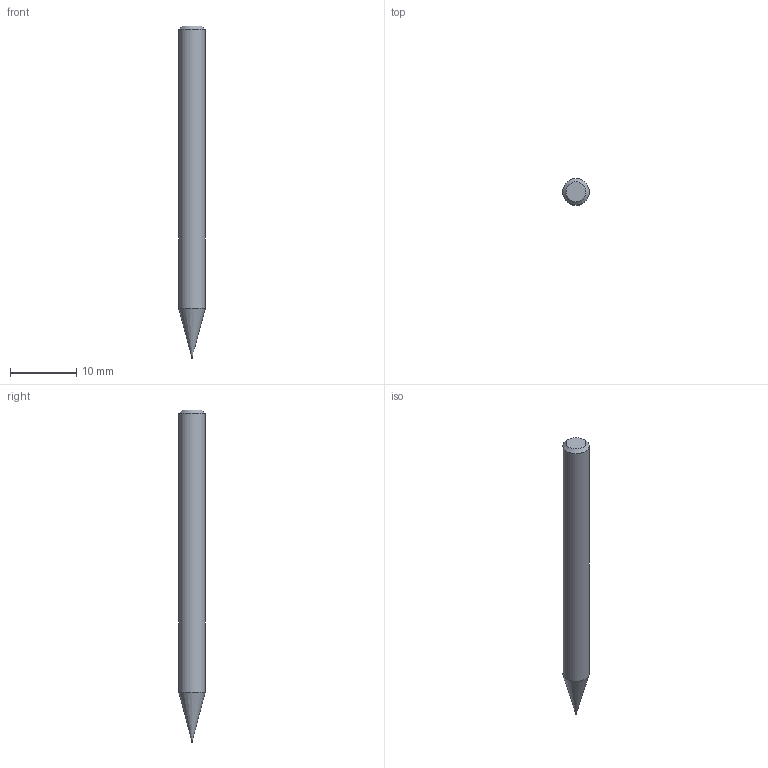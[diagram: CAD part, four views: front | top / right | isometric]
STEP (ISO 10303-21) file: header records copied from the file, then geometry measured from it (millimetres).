
FILE_DESCRIPTION((''),'2;1');
FILE_NAME('C:\Users\nsx150\AppData\Local\Temp\Mastercam 2021\KTITUSYVIC\TEMP.step','2025-03-31T18:53:17',(''),(''),'STEP Write','Mastercam 2021 ... CNC Software, Inc.','');
FILE_SCHEMA(('AUTOMOTIVE_DESIGN'));
Length unit declared in the file: millimetre
Products named in the file (1): None
Bounding box: 4 x 4 x 50 mm (x, y, z)
Volume: 563.9 mm3; surface area: 591.3 mm2
Topology: 2 solids, 2 shells, 10 faces, 14 edges, 8 vertices
Faces by surface type: plane 4, cylinder 3, cone 2, torus 1
Full cylindrical faces by diameter (mm): 0.09 x1, 0.1 x1, 4 x1
Entity records: 232 total; most frequent: DIRECTION 40, CARTESIAN_POINT 28, AXIS2_PLACEMENT_3D 20, ORIENTED_EDGE 16, EDGE_LOOP 16, STYLED_ITEM 13, ADVANCED_FACE 10, FACE_BOUND 10
